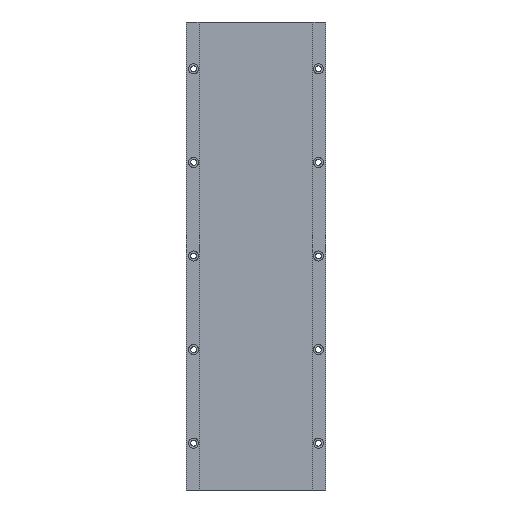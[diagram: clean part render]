
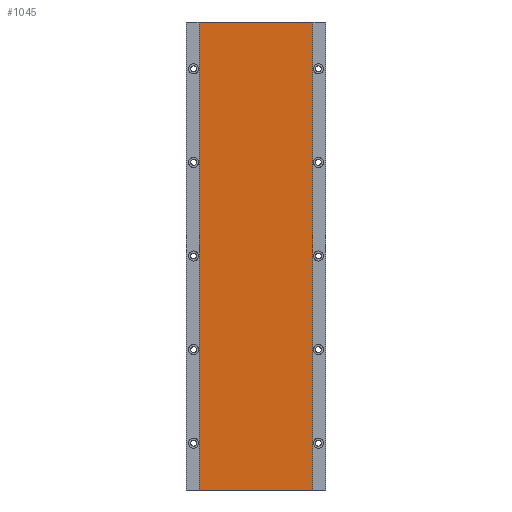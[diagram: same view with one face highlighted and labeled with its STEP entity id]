
A CAD part, left-side view. The second image highlights one B-rep face of the part: STEP entity #1045.
In plain terms, the highlighted planar face has unit normal (-1, 0, 0).
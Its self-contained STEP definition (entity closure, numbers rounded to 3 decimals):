
#56 = FACE_OUTER_BOUND ( 'NONE', #1209, .T. ) ;
#84 = CARTESIAN_POINT ( 'NONE',  ( -7.8, 0., 420. ) ) ;
#98 = DIRECTION ( 'NONE',  ( 0., 0., -1. ) ) ;
#102 = ORIENTED_EDGE ( 'NONE', *, *, #420, .T. ) ;
#117 = DIRECTION ( 'NONE',  ( -1., 0., 0. ) ) ;
#207 = CARTESIAN_POINT ( 'NONE',  ( -7.8, 0., 0. ) ) ;
#293 = LINE ( 'NONE', #207, #1826 ) ;
#420 = EDGE_CURVE ( 'NONE', #1550, #950, #1143, .T. ) ;
#500 = EDGE_CURVE ( 'NONE', #1704, #950, #293, .T. ) ;
#532 = CARTESIAN_POINT ( 'NONE',  ( -7.8, 51.1, 420. ) ) ;
#561 = CARTESIAN_POINT ( 'NONE',  ( -7.8, 0., 420. ) ) ;
#677 = EDGE_CURVE ( 'NONE', #813, #1550, #1234, .T. ) ;
#702 = DIRECTION ( 'NONE',  ( 0., 0., 1. ) ) ;
#723 = VECTOR ( 'NONE', #98, 1000. ) ;
#730 = EDGE_CURVE ( 'NONE', #813, #1704, #1306, .T. ) ;
#808 = CARTESIAN_POINT ( 'NONE',  ( -7.8, -51.1, 0. ) ) ;
#813 = VERTEX_POINT ( 'NONE', #1134 ) ;
#950 = VERTEX_POINT ( 'NONE', #1767 ) ;
#1045 = ADVANCED_FACE ( 'NONE', ( #56 ), #1282, .T. ) ;
#1047 = AXIS2_PLACEMENT_3D ( 'NONE', #561, #117, #702 ) ;
#1055 = ORIENTED_EDGE ( 'NONE', *, *, #500, .F. ) ;
#1134 = CARTESIAN_POINT ( 'NONE',  ( -7.8, -51.1, 420. ) ) ;
#1143 = LINE ( 'NONE', #1850, #1587 ) ;
#1209 = EDGE_LOOP ( 'NONE', ( #1055, #1520, #1562, #102 ) ) ;
#1234 = LINE ( 'NONE', #84, #1280 ) ;
#1280 = VECTOR ( 'NONE', #1813, 1000. ) ;
#1282 = PLANE ( 'NONE',  #1047 ) ;
#1306 = LINE ( 'NONE', #1831, #723 ) ;
#1358 = DIRECTION ( 'NONE',  ( 0., 1., 0. ) ) ;
#1402 = DIRECTION ( 'NONE',  ( 0., 0., -1. ) ) ;
#1520 = ORIENTED_EDGE ( 'NONE', *, *, #730, .F. ) ;
#1550 = VERTEX_POINT ( 'NONE', #532 ) ;
#1562 = ORIENTED_EDGE ( 'NONE', *, *, #677, .T. ) ;
#1587 = VECTOR ( 'NONE', #1402, 1000. ) ;
#1704 = VERTEX_POINT ( 'NONE', #808 ) ;
#1767 = CARTESIAN_POINT ( 'NONE',  ( -7.8, 51.1, 0. ) ) ;
#1813 = DIRECTION ( 'NONE',  ( 0., 1., 0. ) ) ;
#1826 = VECTOR ( 'NONE', #1358, 1000. ) ;
#1831 = CARTESIAN_POINT ( 'NONE',  ( -7.8, -51.1, 420. ) ) ;
#1850 = CARTESIAN_POINT ( 'NONE',  ( -7.8, 51.1, 420. ) ) ;
